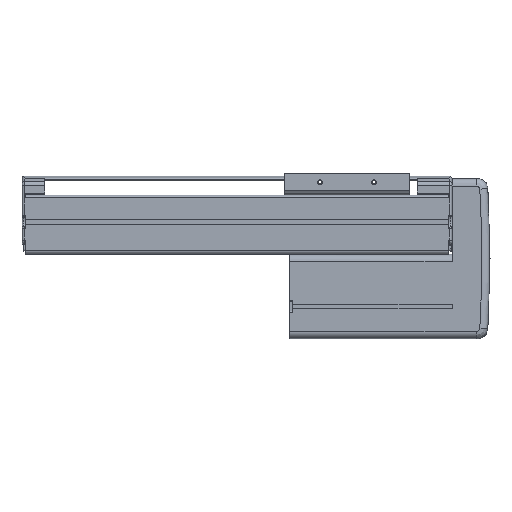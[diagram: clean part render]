
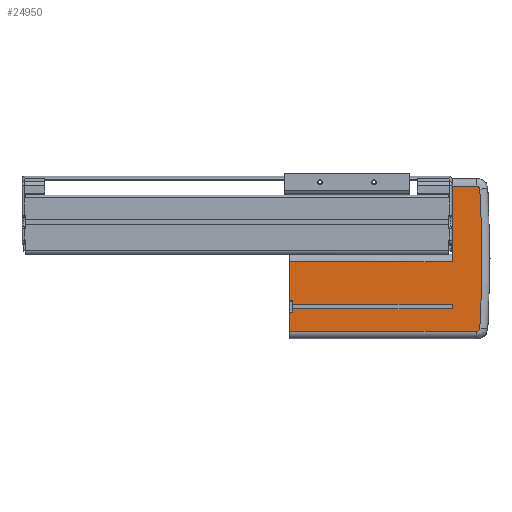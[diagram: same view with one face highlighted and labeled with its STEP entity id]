
A CAD part, top view. The second image highlights one B-rep face of the part: STEP entity #24950.
In plain terms, the highlighted planar face has unit normal (0, 0, 1).
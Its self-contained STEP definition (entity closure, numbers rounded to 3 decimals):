
#3383=DIRECTION('',(1.,0.,0.));
#3384=VECTOR('',#3383,22.587);
#3385=CARTESIAN_POINT('',(394.,-70.,33.));
#3386=LINE('',#3385,#3384);
#3395=DIRECTION('',(-1.,0.,0.));
#3396=VECTOR('',#3395,150.);
#3397=CARTESIAN_POINT('',(394.,-70.,33.));
#3398=LINE('',#3397,#3396);
#3399=DIRECTION('',(0.,-1.,0.));
#3400=VECTOR('',#3399,17.5);
#3401=CARTESIAN_POINT('',(244.,-52.5,33.));
#3402=LINE('',#3401,#3400);
#3403=DIRECTION('',(0.,-1.,0.));
#3404=VECTOR('',#3403,3.4);
#3405=CARTESIAN_POINT('',(247.,-49.1,33.));
#3406=LINE('',#3405,#3404);
#3407=DIRECTION('',(0.,1.,0.));
#3408=VECTOR('',#3407,4.2);
#3409=CARTESIAN_POINT('',(394.,-49.1,33.));
#3410=LINE('',#3409,#3408);
#3411=DIRECTION('',(0.,-1.,0.));
#3412=VECTOR('',#3411,3.4);
#3413=CARTESIAN_POINT('',(247.,-41.5,33.));
#3414=LINE('',#3413,#3412);
#3415=DIRECTION('',(0.,-1.,0.));
#3416=VECTOR('',#3415,35.5);
#3417=CARTESIAN_POINT('',(244.,-6.,33.));
#3418=LINE('',#3417,#3416);
#3419=DIRECTION('',(0.,1.,0.));
#3420=VECTOR('',#3419,70.);
#3421=CARTESIAN_POINT('',(394.,-6.,33.));
#3422=LINE('',#3421,#3420);
#3423=CARTESIAN_POINT('',(416.587,60.999,33.));
#3424=DIRECTION('',(0.,0.,-1.));
#3425=DIRECTION('',(0.,1.,0.));
#3426=AXIS2_PLACEMENT_3D('',#3423,#3424,#3425);
#3428=CARTESIAN_POINT('',(-571.,-3.,33.));
#3429=DIRECTION('',(0.,0.,-1.));
#3430=DIRECTION('',(0.998,0.065,0.));
#3431=AXIS2_PLACEMENT_3D('',#3428,#3429,#3430);
#3433=CARTESIAN_POINT('',(416.587,-66.999,33.));
#3434=DIRECTION('',(0.,0.,-1.));
#3435=DIRECTION('',(0.998,-0.065,0.));
#3436=AXIS2_PLACEMENT_3D('',#3433,#3434,#3435);
#3438=DIRECTION('',(-1.,0.,0.));
#3439=VECTOR('',#3438,3.);
#3440=CARTESIAN_POINT('',(247.,-52.5,33.));
#3441=LINE('',#3440,#3439);
#3470=DIRECTION('',(1.,0.,0.));
#3471=VECTOR('',#3470,3.);
#3472=CARTESIAN_POINT('',(244.,-41.5,33.));
#3473=LINE('',#3472,#3471);
#3478=DIRECTION('',(-1.,0.,0.));
#3479=VECTOR('',#3478,147.);
#3480=CARTESIAN_POINT('',(394.,-49.1,33.));
#3481=LINE('',#3480,#3479);
#13833=DIRECTION('',(-1.,0.,0.));
#13834=VECTOR('',#13833,150.);
#13835=CARTESIAN_POINT('',(394.,-6.,33.));
#13836=LINE('',#13835,#13834);
#15029=DIRECTION('',(-1.,0.,0.));
#15030=VECTOR('',#15029,22.587);
#15031=CARTESIAN_POINT('',(416.587,64.,33.));
#15032=LINE('',#15031,#15030);
#15062=DIRECTION('',(1.,0.,0.));
#15063=VECTOR('',#15062,147.);
#15064=CARTESIAN_POINT('',(247.,-44.9,33.));
#15065=LINE('',#15064,#15063);
#16053=CARTESIAN_POINT('',(244.,-6.,33.));
#16054=CARTESIAN_POINT('',(244.,-41.5,33.));
#16055=VERTEX_POINT('',#16053);
#16056=VERTEX_POINT('',#16054);
#16065=CARTESIAN_POINT('',(244.,-52.5,33.));
#16066=VERTEX_POINT('',#16065);
#16067=CARTESIAN_POINT('',(244.,-70.,33.));
#16068=VERTEX_POINT('',#16067);
#16190=CARTESIAN_POINT('',(394.,64.,33.));
#16192=VERTEX_POINT('',#16190);
#16205=CARTESIAN_POINT('',(416.587,-70.,
33.));
#16206=VERTEX_POINT('',#16205);
#16207=CARTESIAN_POINT('',(419.582,-67.194,
33.));
#16208=VERTEX_POINT('',#16207);
#16209=CARTESIAN_POINT('',(419.582,61.194,33.));
#16210=VERTEX_POINT('',#16209);
#16211=CARTESIAN_POINT('',(416.587,64.,33.));
#16212=VERTEX_POINT('',#16211);
#16435=CARTESIAN_POINT('',(247.,-44.9,33.));
#16437=VERTEX_POINT('',#16435);
#16448=CARTESIAN_POINT('',(247.,-49.1,33.));
#16449=VERTEX_POINT('',#16448);
#19652=CARTESIAN_POINT('',(247.,-52.5,33.));
#19654=VERTEX_POINT('',#19652);
#19662=CARTESIAN_POINT('',(247.,-41.5,33.));
#19663=VERTEX_POINT('',#19662);
#19830=CARTESIAN_POINT('',(394.,-6.,33.));
#19831=VERTEX_POINT('',#19830);
#19832=CARTESIAN_POINT('',(394.,-44.9,33.));
#19833=VERTEX_POINT('',#19832);
#19834=CARTESIAN_POINT('',(394.,-49.1,33.));
#19835=VERTEX_POINT('',#19834);
#19836=CARTESIAN_POINT('',(394.,-70.,33.));
#19837=VERTEX_POINT('',#19836);
#24917=CARTESIAN_POINT('',(320.5,-25.45,33.));
#24918=DIRECTION('',(0.,0.,1.));
#24919=DIRECTION('',(0.,1.,0.));
#24920=AXIS2_PLACEMENT_3D('',#24917,#24918,#24919);
#24921=PLANE('',#24920);
#24922=ORIENTED_EDGE('',*,*,#24908,.F.);
#24923=ORIENTED_EDGE('',*,*,#24906,.T.);
#24924=ORIENTED_EDGE('',*,*,#21370,.F.);
#24926=ORIENTED_EDGE('',*,*,#24925,.F.);
#24927=ORIENTED_EDGE('',*,*,#22792,.F.);
#24929=ORIENTED_EDGE('',*,*,#24928,.F.);
#24931=ORIENTED_EDGE('',*,*,#24930,.T.);
#24933=ORIENTED_EDGE('',*,*,#24932,.F.);
#24934=ORIENTED_EDGE('',*,*,#22776,.F.);
#24936=ORIENTED_EDGE('',*,*,#24935,.F.);
#24937=ORIENTED_EDGE('',*,*,#21358,.F.);
#24939=ORIENTED_EDGE('',*,*,#24938,.F.);
#24941=ORIENTED_EDGE('',*,*,#24940,.T.);
#24943=ORIENTED_EDGE('',*,*,#24942,.F.);
#24945=ORIENTED_EDGE('',*,*,#24944,.T.);
#24946=ORIENTED_EDGE('',*,*,#24868,.T.);
#24947=ORIENTED_EDGE('',*,*,#24895,.T.);
#24948=EDGE_LOOP('',(#24922,#24923,#24924,#24926,#24927,#24929,#24931,#24933,
#24934,#24936,#24937,#24939,#24941,#24943,#24945,#24946,#24947));
#24949=FACE_OUTER_BOUND('',#24948,.F.);
#24950=ADVANCED_FACE('',(#24949),#24921,.T.);
#3427=CIRCLE('',#3426,3.001);
#3432=CIRCLE('',#3431,992.66);
#3437=CIRCLE('',#3436,3.001);
#21358=EDGE_CURVE('',#16055,#16056,#3418,.T.);
#21370=EDGE_CURVE('',#16066,#16068,#3402,.T.);
#22776=EDGE_CURVE('',#19663,#16437,#3414,.T.);
#22792=EDGE_CURVE('',#16449,#19654,#3406,.T.);
#24868=EDGE_CURVE('',#16210,#16208,#3432,.T.);
#24895=EDGE_CURVE('',#16208,#16206,#3437,.T.);
#24906=EDGE_CURVE('',#19837,#16068,#3398,.T.);
#24908=EDGE_CURVE('',#19837,#16206,#3386,.T.);
#24925=EDGE_CURVE('',#19654,#16066,#3441,.T.);
#24928=EDGE_CURVE('',#19835,#16449,#3481,.T.);
#24930=EDGE_CURVE('',#19835,#19833,#3410,.T.);
#24932=EDGE_CURVE('',#16437,#19833,#15065,.T.);
#24935=EDGE_CURVE('',#16056,#19663,#3473,.T.);
#24938=EDGE_CURVE('',#19831,#16055,#13836,.T.);
#24940=EDGE_CURVE('',#19831,#16192,#3422,.T.);
#24942=EDGE_CURVE('',#16212,#16192,#15032,.T.);
#24944=EDGE_CURVE('',#16212,#16210,#3427,.T.);
